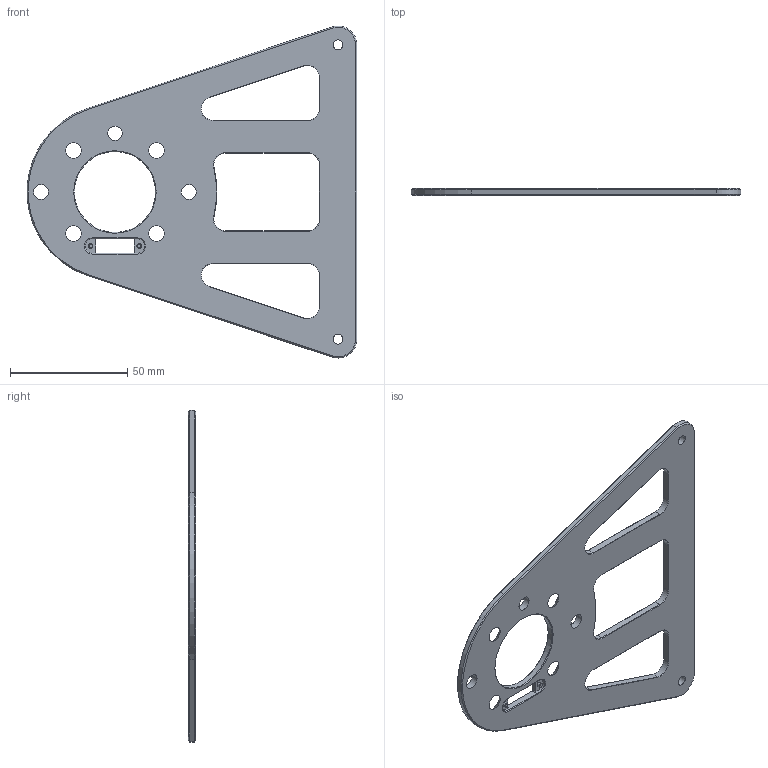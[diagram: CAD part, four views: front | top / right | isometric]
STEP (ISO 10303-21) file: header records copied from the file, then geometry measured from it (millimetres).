
FILE_DESCRIPTION (( 'STEP AP203' ), '1' );
FILE_NAME ('D555_SOLID_SOC-1.STEP', '2025-12-04T06:50:59', ( '' ), ( '' ), 'SwSTEP 2.0', 'SolidWorks 2016', '' );
FILE_SCHEMA (( 'CONFIG_CONTROL_DESIGN' ));
Length unit declared in the file: millimetre
Products named in the file (1): D555_SOLID_SOC-1
Bounding box: 140.37 x 3 x 141.4 mm (x, y, z)
Volume: 27655.7 mm3; surface area: 22024.8 mm2
Topology: 1 solids, 1 shells, 114 faces, 271 edges, 161 vertices
Faces by surface type: plane 48, cone 38, cylinder 28
Full cylindrical faces by diameter (mm): 2 x2, 4.2 x2, 6.1 x1, 6.4 x2, 34.5 x1
Entity records: 3285 total; most frequent: DIRECTION 582, CARTESIAN_POINT 529, ORIENTED_EDGE 508, EDGE_CURVE 254, AXIS2_PLACEMENT_3D 213, EDGE_LOOP 160, VERTEX_POINT 160, VECTOR 156
